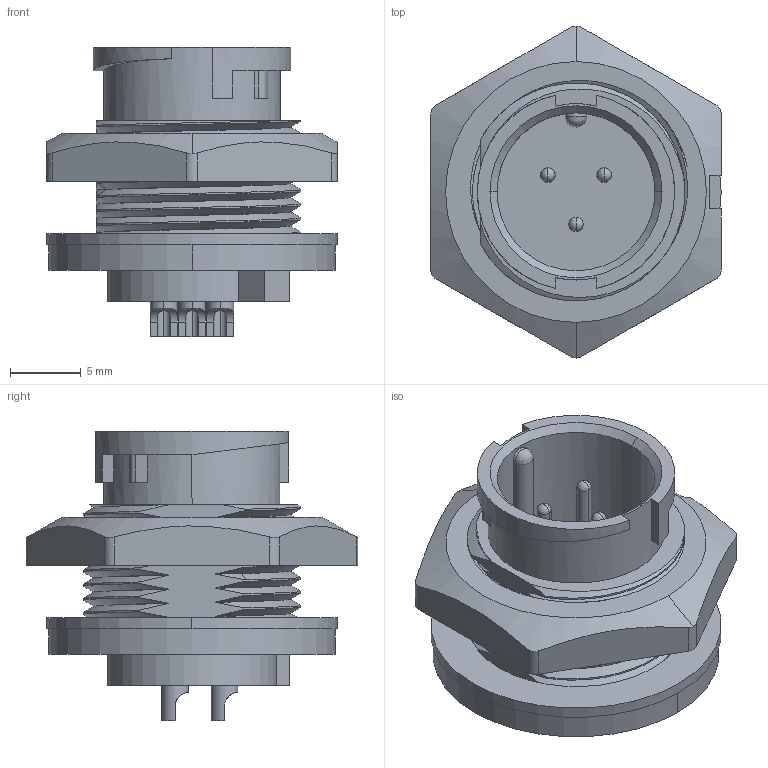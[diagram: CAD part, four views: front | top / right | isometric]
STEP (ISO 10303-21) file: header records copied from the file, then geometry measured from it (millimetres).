
FILE_DESCRIPTION (( 'STEP AP203' ), '1' );
FILE_NAME ('869-03B-103R001.STEP', '2024-06-14T18:24:38', ( '' ), ( '' ), 'SwSTEP 2.0', 'SolidWorks 2020', '' );
FILE_SCHEMA (( 'CONFIG_CONTROL_DESIGN' ));
Length unit declared in the file: millimetre
Products named in the file (1): 869-03B-103R001
Bounding box: 20.6 x 23.54 x 20.5 mm (x, y, z)
Volume: 2609.2 mm3; surface area: 3427.8 mm2
Topology: 2 solids, 2 shells, 212 faces, 557 edges, 344 vertices
Faces by surface type: cylinder 78, plane 55, bspline 50, cone 29
Entity records: 12865 total; most frequent: CARTESIAN_POINT 8115, ORIENTED_EDGE 1074, DIRECTION 804, EDGE_CURVE 537, VERTEX_POINT 344, AXIS2_PLACEMENT_3D 308, EDGE_LOOP 229, FACE_OUTER_BOUND 212
